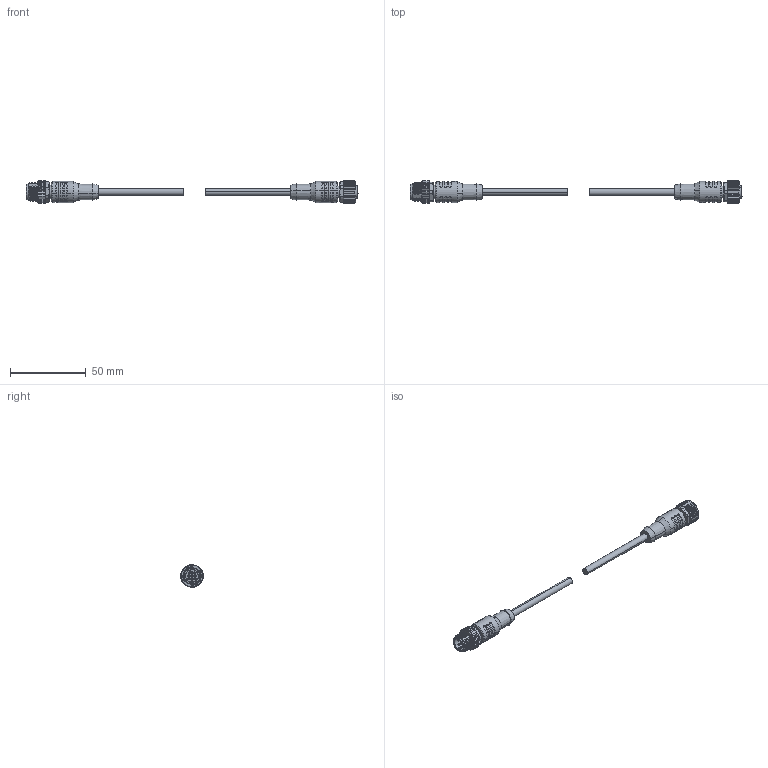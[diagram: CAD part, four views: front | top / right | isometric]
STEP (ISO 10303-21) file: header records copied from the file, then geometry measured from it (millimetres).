
FILE_DESCRIPTION (( 'STEP AP203' ), '1' );
FILE_NAME ('64D281-XXX.STEP', '2024-12-09T02:59:48', ( 'L' ), ( '' ), 'SwSTEP 2.0', 'SolidWorks 2019', '' );
FILE_SCHEMA (( 'CONFIG_CONTROL_DESIGN' ));
Products named in the file (1): 64D281-XXX
Bounding box: 219.58 x 14.99 x 15 mm (x, y, z)
Volume: 11941.5 mm3; surface area: 9104.1 mm2
Topology: 2 solids, 2 shells, 1381 faces, 3949 edges, 2629 vertices
Faces by surface type: plane 656, cylinder 376, bspline 180, cone 127, torus 42
Entity records: 72695 total; most frequent: CARTESIAN_POINT 40086, ORIENTED_EDGE 7898, DIRECTION 5155, EDGE_CURVE 3949, VERTEX_POINT 2629, AXIS2_PLACEMENT_3D 1787, B_SPLINE_CURVE_WITH_KNOTS 1725, VECTOR 1581
